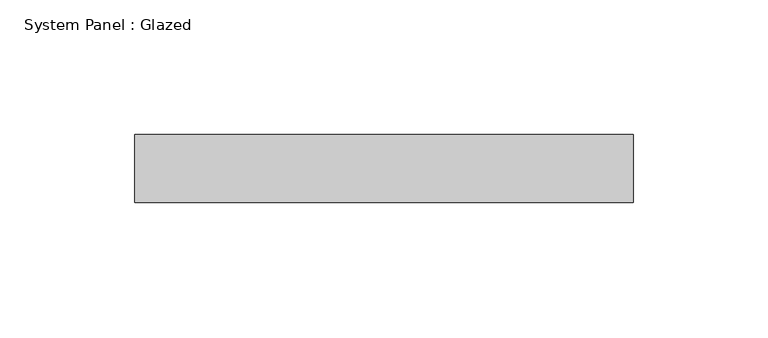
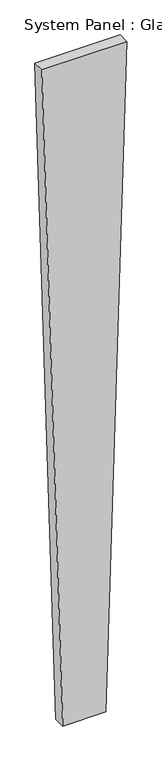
"""IFC4 building model written with IfcOpenShell, lengths in millimetres: plate geometry, System Panel : Glazed."""

from ifc_helpers import new_model, si_unit, frame, origin, place, context, project, spatial, polyline, outline, extrude, source, transform, mapped, element, save


def system_panel_glazed_43493433(model_context):
    return source(origin(), model_context, "Body", "SweptSolid", [
        extrude(outline(polyline([(0.0, -47.0543798), (0.0, 47.0543798), (1523.3182012, 92.6357122), (1523.3182012, -92.6357122), (0.0, -47.0543798)])), frame((0.0, 19.05, 0.0), z_axis=(0.0, 1.0, 0.0), x_axis=(0.0, 0.0, 1.0)), (0.0, 0.0, 1.0), 25.4),
    ])


if __name__ == "__main__":
    model = new_model("IFC4")
    model_context = context("Model", 3, world=origin())
    ifc_project = project(units=[si_unit("LENGTHUNIT", "METRE", prefix="MILLI")], contexts=[model_context])
    site = spatial("IfcSite", under=ifc_project)
    building = spatial("IfcBuilding", under=site)
    placement = place(None, origin())
    system_panel_glazed_shape = system_panel_glazed_43493433(model_context)
    element("IfcPlate", 1, ObjectType="System Panel : Glazed", at=placement, inside=building, context=model_context, shape_type="MappedRepresentation", body=[
        mapped(system_panel_glazed_shape, transform((0.0, 0.0, 0.0), x_axis=(1.0, 0.0, 0.0), y_axis=(0.0, 1.0, 0.0), z_axis=(0.0, 0.0, 1.0))),
    ])
    save(model, "model.ifc")
